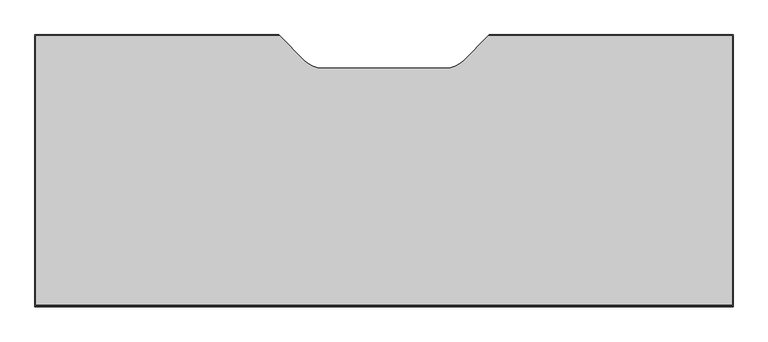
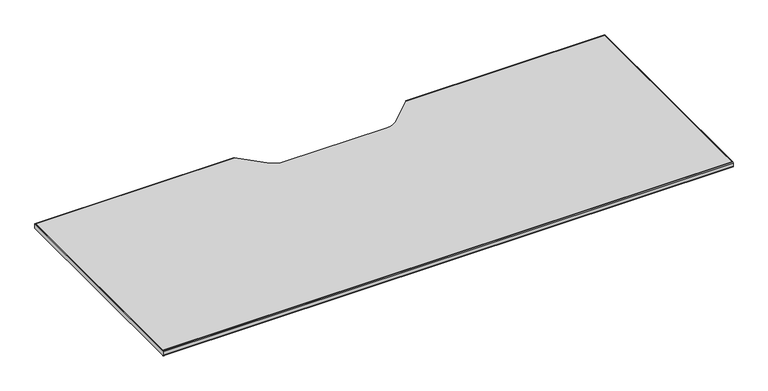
"""IFC4 building model written with IfcOpenShell, lengths in millimetres: furniture geometry, Steelcase Turnstone - Bivi - Table - Table Top : 24D x 60W."""

from ifc_helpers import new_model, si_unit, point, frame, frame_2d, origin, place, context, project, spatial, polyline, circle_curve, trimmed, segment, composite_curve, outline, extrude, source, transform, mapped, element, save
from ifc_brep_helpers import plane_surface, cylinder_surface, advanced_brep


def furniture_fbfb8057(model_context):
    return source(origin(), model_context, "Body", "SolidModel", [
        advanced_brep(
        [(514.3499939, 727.0750061, 723.566625), (515.3499939, 726.0750061, 723.566625), (515.3499939, 726.0750061, 710.485625), (514.3499939, 727.0750061, 710.485625), (957.8500067, 726.0750061, 723.566625), (958.8500061, 727.0750061, 723.566625), (958.8500061, 727.0750061, 710.485625), (957.8500067, 726.0750061, 710.485625), (1473.2, 727.0750061, 723.566625), (1472.2, 726.0750061, 723.566625), (1472.2, 155.2730061, 723.566625), (1.0, 155.2730061, 723.566625), (1.0, 726.0750061, 723.566625), (0.0, 727.0750061, 723.566625), (0.0, 154.3050061, 723.566625), (1473.2, 154.3050061, 723.566625), (1472.2, 726.0750061, 710.485625), (1472.2, 155.2730061, 710.485625), (1473.2, 727.0750061, 710.485625), (1473.2, 154.3050061, 710.485625), (0.0, 154.3050061, 710.485625), (0.0, 727.0750061, 710.485625), (1.0, 726.0750061, 710.485625), (1.0, 155.2730061, 710.485625), (1473.2, 152.2730061, 721.534625), (1473.2, 152.2730061, 712.517625), (0.0, 152.2730061, 712.517625), (0.0, 152.2730061, 721.534625)],
        [
            (0, 1),
            (1, 2),
            (2, 3),
            (3, 0),
            (4, 5),
            (5, 6),
            (6, 7),
            (7, 4),
            (8, 5),
            (4, 9),
            (9, 10),
            (10, 11),
            (11, 12),
            (12, 1),
            (0, 13),
            (13, 14),
            (14, 15),
            (15, 8),
            (9, 16),
            (16, 17),
            (17, 10),
            (16, 7),
            (6, 18),
            (18, 19),
            (19, 20),
            (20, 21),
            (21, 3),
            (2, 22),
            (22, 23),
            (23, 17),
            (15, 24, circle_curve(frame((1473.2, 154.3050061, 721.534625), z_axis=(1.0, 0.0, 0.0), x_axis=(0.0, 1.0, 0.0)), 2.032)),
            (24, 25),
            (25, 19, circle_curve(frame((1473.2, 154.3050061, 712.517625), z_axis=(1.0, 0.0, 0.0), x_axis=(0.0, 1.0, 0.0)), 2.032)),
            (18, 8),
            (12, 22),
            (21, 13),
            (11, 23),
            (20, 26, circle_curve(frame((0.0, 154.3050061, 712.517625), z_axis=(-1.0, 0.0, 0.0), x_axis=(0.0, 1.0, 0.0)), 2.032)),
            (26, 27),
            (27, 14, circle_curve(frame((0.0, 154.3050061, 721.534625), z_axis=(-1.0, 0.0, 0.0), x_axis=(0.0, 1.0, 0.0)), 2.032)),
            (25, 26),
            (24, 27),
        ],
        [
            plane_surface(frame((514.3499939, 727.0750061, 724.4389999), z_axis=(0.7071067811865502, 0.7071067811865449, 0.0), x_axis=(0.0, 0.0, -1.0))),
            plane_surface(frame((904.6973766, 672.9223408, 724.4389999), z_axis=(-0.7071070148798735, 0.7071065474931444, 0.0), x_axis=(0.0, 0.0, -1.0))),
            plane_surface(frame((1473.2, 155.2730061, 723.566625), z_axis=(0.0, 0.0, 1.0), x_axis=(0.0, 1.0, 0.0))),
            plane_surface(frame((1472.2, 155.2730061, 723.566625), z_axis=(-1.0, 0.0, 0.0), x_axis=(0.0, 1.0, 0.0))),
            plane_surface(frame((1472.2, 155.2730061, 710.485625), z_axis=(0.0, 0.0, -1.0), x_axis=(0.0, 1.0, 0.0))),
            plane_surface(frame((1473.2, 155.2730061, 710.485625), z_axis=(1.0, 0.0, 0.0), x_axis=(0.0, 1.0, 0.0))),
            plane_surface(frame((1472.2, 726.0750061, 723.566625), z_axis=(0.0, -1.0, 0.0), x_axis=(-1.0, 0.0, 0.0))),
            plane_surface(frame((1473.2, 727.0750061, 710.485625), z_axis=(0.0, 1.0, 0.0), x_axis=(-1.0, 0.0, 0.0))),
            plane_surface(frame((1.0, 726.0750061, 723.566625), z_axis=(1.0, 0.0, 0.0), x_axis=(0.0, -1.0, 0.0))),
            plane_surface(frame((0.0, 727.0750061, 710.485625), z_axis=(-1.0, 0.0, 0.0), x_axis=(0.0, -1.0, 0.0))),
            cylinder_surface(frame((0.0, 154.3050061, 712.517625), z_axis=(-1.0, 0.0, 0.0), x_axis=(0.0, 1.0, 0.0)), 2.032),
            plane_surface(frame((0.0, 152.2730061, 712.517625), z_axis=(0.0, -1.0, 0.0), x_axis=(1.0, 0.0, 0.0))),
            cylinder_surface(frame((0.0, 154.3050061, 721.534625), z_axis=(-1.0, 0.0, 0.0), x_axis=(0.0, 1.0, 0.0)), 2.032),
            plane_surface(frame((0.0, 155.2730061, 723.566625), z_axis=(0.0, 1.0, 0.0), x_axis=(1.0, 0.0, 0.0))),
        ],
        [
            (0, [[1, 2, 3, 4]]),
            (1, [[5, 6, 7, 8]]),
            (2, [[9, -5, 10, 11, 12, 13, 14, -1, 15, 16, 17, 18]]),
            (3, [[-11, 19, 20, 21]]),
            (4, [[-20, 22, -7, 23, 24, 25, 26, 27, -3, 28, 29, 30]]),
            (5, [[-18, 31, 32, 33, -24, 34]]),
            (6, [[-19, -10, -8, -22]]),
            (6, [[35, -28, -2, -14]]),
            (7, [[-34, -23, -6, -9]]),
            (7, [[36, -15, -4, -27]]),
            (8, [[-13, 37, -29, -35]]),
            (9, [[-16, -36, -26, 38, 39, 40]]),
            (10, [[-38, -25, -33, 41]]),
            (11, [[-39, -41, -32, 42]]),
            (12, [[-40, -42, -31, -17]]),
            (13, [[-30, -37, -12, -21]]),
        ],
    ),
        extrude(outline(composite_curve([segment(polyline([(1472.2, 726.0750061), (1472.2, 155.2730061), (1.0, 155.2730061), (1.0, 726.0750061), (515.3499939, 726.0750061), (568.512149, 672.912851)]), True, "CONTINUOUS"), segment(trimmed(circle_curve(frame_2d((606.3859497, 710.7866517)), 53.5616426), [point((568.512149, 672.912851))], [point((606.3859497, 657.2250091))], True, "CARTESIAN"), True, "CONTINUOUS"), segment(polyline([(606.3859497, 657.2250091), (866.8006832, 657.2250091)]), True, "CONTINUOUS"), segment(trimmed(circle_curve(frame_2d((866.8006832, 710.8190091)), 53.594), [point((866.8006832, 657.2250091))], [point((904.6973766, 672.9223408))], True, "CARTESIAN"), True, "CONTINUOUS"), segment(polyline([(904.6973766, 672.9223408), (957.8500067, 726.0750061), (1472.2, 726.0750061)]), True, "CONTINUOUS")], self_intersect=False)), frame((0.0, 0.0, 710.485625), z_axis=(0.0, 0.0, 1.0), x_axis=(1.0, 0.0, 0.0)), (0.0, 0.0, 1.0), 13.081),
    ])


if __name__ == "__main__":
    model = new_model("IFC4")
    model_context = context("Model", 3, world=origin())
    ifc_project = project(units=[si_unit("LENGTHUNIT", "METRE", prefix="MILLI")], contexts=[model_context])
    site = spatial("IfcSite", under=ifc_project)
    building = spatial("IfcBuilding", under=site)
    placement = place(None, origin())
    furniture_shape = furniture_fbfb8057(model_context)
    element("IfcFurniture", 1, ObjectType="Steelcase Turnstone - Bivi - Table - Table Top : 24D x 60W", at=placement, inside=building, context=model_context, shape_type="MappedRepresentation", body=[
        mapped(furniture_shape, transform((0.0, 0.0, 0.0), x_axis=(1.0, 0.0, 0.0), y_axis=(0.0, 1.0, 0.0), z_axis=(0.0, 0.0, 1.0))),
    ])
    save(model, "model.ifc")
